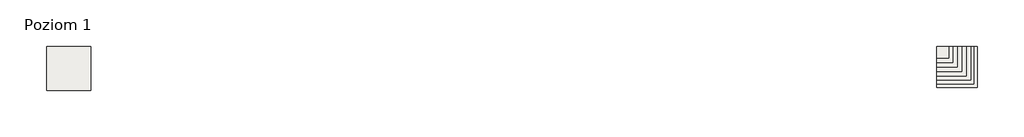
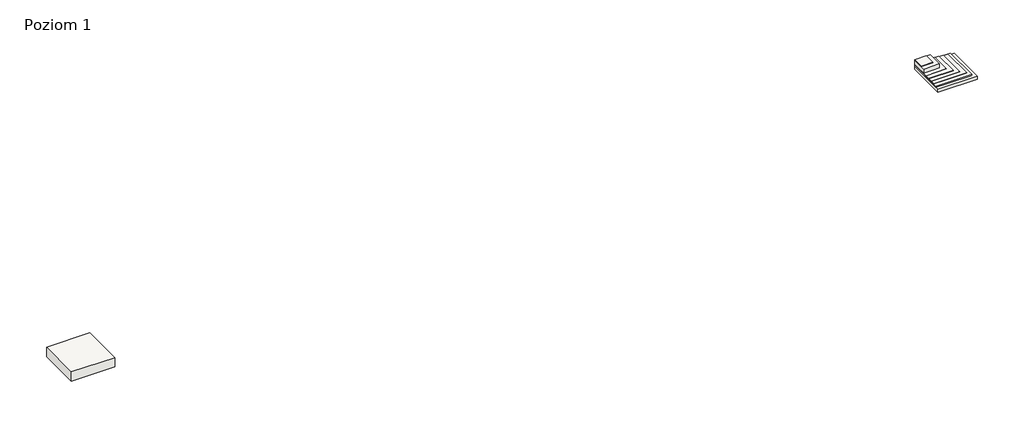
# One storey: 2 roofs.
"""IFC4 building model written with IfcOpenShell, lengths in millimetres."""

import ifcopenshell
import ifcopenshell.guid

model = None  # the IFC model being written
_history = None  # IfcOwnerHistory: only IFC2X3 demands one
_inside = {}  # id of a spatial element -> (the spatial element, [elements in it])
_under = {}  # id of a project, library or spatial element -> (it, [spatial elements below it])
_declared = {}  # id of a project -> (the project, [libraries it declares])
_typed = {}  # id of a type object -> (the type object, [elements of that type])
_made_of = {}  # id of a material, layer set ... -> (it, [elements and type objects made of it])


def new_model(schema):
    """Start an empty IFC model of exactly this schema.

    Asked for "IFC4X3", IfcOpenShell would pick the latest addendum, in which some entities
    have other attributes; the version numbers below select the first issue.
    IFC2X3 requires an IfcOwnerHistory on every rooted entity: one is made here for all.
    """
    global model, _history
    if schema == "IFC4X3":
        model = ifcopenshell.file(schema_version=(4, 3, 0, 0))
    else:
        model = ifcopenshell.file(schema=schema)
    _inside.clear()
    _under.clear()
    _declared.clear()
    _typed.clear()
    _made_of.clear()
    _history = None
    if model.schema == "IFC2X3":
        org = make("IfcOrganization", Name="unknown")
        user = make(
            "IfcPersonAndOrganization",
            ThePerson=make("IfcPerson", FamilyName="unknown"),
            TheOrganization=org,
        )
        app = make(
            "IfcApplication",
            ApplicationDeveloper=org,
            Version="unknown",
            ApplicationFullName="unknown",
            ApplicationIdentifier="unknown",
        )
        _history = make(
            "IfcOwnerHistory",
            OwningUser=user,
            OwningApplication=app,
            ChangeAction="ADDED",
            CreationDate=0,
        )
    return model


def make(cls, **values):
    """One entity of the class cls with the attributes given. An attribute that is None is left unset."""
    return model.create_entity(
        cls, **{name: value for name, value in values.items() if value is not None}
    )


def rooted(cls, **values):
    """An entity with a GlobalId (a new one), such as an element, a storey or a relation."""
    return make(cls, GlobalId=ifcopenshell.guid.new(), OwnerHistory=_history, **values)


def si_unit(unit_type, name, prefix=None):
    """IfcSIUnit, for example si_unit("LENGTHUNIT", "METRE", prefix="MILLI")."""
    return make("IfcSIUnit", UnitType=unit_type, Prefix=prefix, Name=name)


def assignment(units):
    """IfcUnitAssignment: the units of a project."""
    return None if units is None else make("IfcUnitAssignment", Units=units)


def point(xyz):
    """IfcCartesianPoint."""
    return None if xyz is None else make("IfcCartesianPoint", Coordinates=xyz)


def direction(xyz):
    """IfcDirection."""
    return None if xyz is None else make("IfcDirection", DirectionRatios=xyz)


def frame(location, z_axis=None, x_axis=None):
    """IfcAxis2Placement3D, a coordinate frame: its origin and axes. An axis left out is left unset."""
    return make(
        "IfcAxis2Placement3D",
        Location=point(location),
        Axis=direction(z_axis),
        RefDirection=direction(x_axis),
    )


def origin():
    """The frame at (0, 0, 0) with its axes left unset."""
    return frame((0.0, 0.0, 0.0))


def origin_with_axes():
    """The frame at (0, 0, 0) with the z axis (0, 0, 1) and the x axis (1, 0, 0) written out."""
    return frame((0.0, 0.0, 0.0), z_axis=(0.0, 0.0, 1.0), x_axis=(1.0, 0.0, 0.0))


def place(relative_to, where):
    """IfcLocalPlacement: puts the frame where relative to a parent placement (None: the world)."""
    return make(
        "IfcLocalPlacement", PlacementRelTo=relative_to, RelativePlacement=where
    )


def context(
    kind, dimensions, precision=None, world=None, true_north=None, identifier=None
):
    """IfcGeometricRepresentationContext, for example the 3D "Model" context."""
    return make(
        "IfcGeometricRepresentationContext",
        ContextIdentifier=identifier,
        ContextType=kind,
        CoordinateSpaceDimension=dimensions,
        Precision=precision,
        WorldCoordinateSystem=world,
        TrueNorth=true_north,
    )


def project(units=None, contexts=None):
    """IfcProject with its units and contexts."""
    return rooted(
        "IfcProject",
        Name="project",
        RepresentationContexts=contexts,
        UnitsInContext=assignment(units),
    )


def spatial(cls, under=None, at=None, **own):
    """A site, building, storey or space (cls), placed at a placement, below another one or the project."""
    s = rooted(cls, ObjectPlacement=at, **own)
    if under is not None:
        _under.setdefault(under.id(), (under, []))[1].append(s)
    return s


def polyline(points):
    """IfcPolyline through the points."""
    return make("IfcPolyline", Points=[point(p) for p in points])


def outline(outer, holes=None, kind="AREA"):
    """IfcArbitraryClosedProfileDef: a profile drawn as a closed curve; with holes, ...WithVoids."""
    if holes is None:
        return make("IfcArbitraryClosedProfileDef", ProfileType=kind, OuterCurve=outer)
    return make(
        "IfcArbitraryProfileDefWithVoids",
        ProfileType=kind,
        OuterCurve=outer,
        InnerCurves=holes,
    )


def extrude(swept, where, along, depth):
    """IfcExtrudedAreaSolid: the profile swept, set in the frame where, extruded along a direction by depth."""
    return make(
        "IfcExtrudedAreaSolid",
        SweptArea=swept,
        Position=where,
        ExtrudedDirection=direction(along),
        Depth=depth,
    )


def shape(context_of_items, identifier, shape_type, items):
    """IfcShapeRepresentation: the items that make up one representation, for example the "Body"."""
    return make(
        "IfcShapeRepresentation",
        ContextOfItems=context_of_items,
        RepresentationIdentifier=identifier,
        RepresentationType=shape_type,
        Items=items,
    )


def made_of(thing, what):
    """Note that an element or type object is made of a material, layer set ...; save() writes the relation."""
    if what is not None:
        _made_of.setdefault(what.id(), (what, []))[1].append(thing)
    return thing


def element(
    cls,
    number,
    at=None,
    inside=None,
    cuts=None,
    type_object=None,
    material=None,
    context=None,
    identifier="Body",
    shape_type=None,
    held_by="IfcProductDefinitionShape",
    body=None,
    shapes=None,
    **own,
):
    """One element of the class cls, such as IfcWall. Its Tag is "e" and its number.

    at: its placement. inside: the storey or other place that contains it. cuts: it is an
    opening in that element (IfcRelVoidsElement). A single representation is given by context,
    identifier, shape_type and body (its items); several are given by shapes. held_by: the class
    of the entity that holds the representations. save() writes the other relations.
    """
    e = rooted(cls, Tag="e%d" % number, ObjectPlacement=at, **own)
    if body is not None:
        shapes = [shape(context, identifier, shape_type, body)]
    if shapes is not None:
        e.Representation = make(held_by, Representations=shapes)
    if inside is not None:
        _inside.setdefault(inside.id(), (inside, []))[1].append(e)
    if cuts is not None:
        rooted(
            "IfcRelVoidsElement", RelatingBuildingElement=cuts, RelatedOpeningElement=e
        )
    if type_object is not None:
        _typed.setdefault(type_object.id(), (type_object, []))[1].append(e)
    return made_of(e, material)


def aggregate(whole, parts):
    """IfcRelAggregates: a whole, such as a stair, and the parts it consists of."""
    return rooted("IfcRelAggregates", RelatingObject=whole, RelatedObjects=parts)


def save(model, path):
    """Write the relations noted so far, then the file.

    IfcRelAggregates (storeys below a building ...), IfcRelContainedInSpatialStructure (elements
    in a storey), IfcRelDefinesByType, IfcRelAssociatesMaterial and IfcRelDeclares: one each for
    every whole, place, type object, material and project.
    """
    for whole, parts in _under.values():
        aggregate(whole, parts)
    for where, things in _inside.values():
        rooted(
            "IfcRelContainedInSpatialStructure",
            RelatedElements=things,
            RelatingStructure=where,
        )
    for kind, things in _typed.values():
        rooted("IfcRelDefinesByType", RelatedObjects=things, RelatingType=kind)
    for what, things in _made_of.values():
        rooted("IfcRelAssociatesMaterial", RelatedObjects=things, RelatingMaterial=what)
    for by, libraries in _declared.values():
        rooted("IfcRelDeclares", RelatingContext=by, RelatedDefinitions=libraries)
    model.write(path)


model = new_model("IFC4")

# Units and contexts
model_context = context("Model", 3, world=origin())
ifc_project = project(units=[si_unit("LENGTHUNIT", "METRE", prefix="MILLI")], contexts=[model_context])

# Site, building, storey
site = spatial("IfcSite", under=ifc_project)
building = spatial("IfcBuilding", under=site)
storey = spatial("IfcBuildingStorey", under=building, Name="Poziom 1", Elevation=0.0)

# Roofs
placement = place(None, origin())
element("IfcRoof", 1, ObjectType="Dachy zielone w uprawie intensywnej – Atus CRICKET 60 - układ tradycyjny", at=placement, inside=storey, context=model_context, shape_type="SweptSolid", body=[
    extrude(outline(polyline([(-16494.8444454, -525.5470033), (-13494.8444454, -525.5470033), (-13494.8444454, -3525.5470033), (-16494.8444454, -3525.5470033), (-16494.8444454, -525.5470033)])), origin_with_axes(), (0.0, 0.0, 1.0), 691.0),
])
element("IfcRoof", 2, ObjectType="Dachy zielone w uprawie intensywnej – Atus CRICKET 60 - układ tradycyjny", at=placement, inside=storey, context=model_context, shape_type="SweptSolid", body=[
    extrude(outline(polyline([(43905.1555546, -525.5470033), (44705.1555546, -525.5470033), (44705.1555546, -1325.5470033), (43905.1555546, -1325.5470033), (43905.1555546, -525.5470033)])), frame((0.0, 0.0, 666.0), z_axis=(0.0, 0.0, 1.0), x_axis=(1.0, 0.0, 0.0)), (0.0, 0.0, 1.0), 25.0),
    extrude(outline(polyline([(43905.1555546, -525.5470033), (45005.1555546, -525.5470033), (45005.1555546, -1625.5470033), (43905.1555546, -1625.5470033), (43905.1555546, -525.5470033)])), frame((0.0, 0.0, 366.0), z_axis=(0.0, 0.0, 1.0), x_axis=(1.0, 0.0, 0.0)), (0.0, 0.0, 1.0), 300.0),
    extrude(outline(polyline([(43905.1555546, -525.5470033), (45305.1555546, -525.5470033), (45305.1555546, -1925.5470033), (43905.1555546, -1925.5470033), (43905.1555546, -525.5470033)])), frame((0.0, 0.0, 365.0), z_axis=(0.0, 0.0, 1.0), x_axis=(1.0, 0.0, 0.0)), (0.0, 0.0, 1.0), 1.0),
    extrude(outline(polyline([(43905.1555546, -525.5470033), (45605.1555546, -525.5470033), (45605.1555546, -2225.5470033), (43905.1555546, -2225.5470033), (43905.1555546, -525.5470033)])), frame((0.0, 0.0, 305.0), z_axis=(0.0, 0.0, 1.0), x_axis=(1.0, 0.0, 0.0)), (0.0, 0.0, 1.0), 60.0),
    extrude(outline(polyline([(43905.1555546, -525.5470033), (45905.1555546, -525.5470033), (45905.1555546, -2525.5470033), (43905.1555546, -2525.5470033), (43905.1555546, -525.5470033)])), frame((0.0, 0.0, 302.0), z_axis=(0.0, 0.0, 1.0), x_axis=(1.0, 0.0, 0.0)), (0.0, 0.0, 1.0), 3.0),
    extrude(outline(polyline([(43905.1555546, -525.5470033), (46205.1555546, -525.5470033), (46205.1555546, -2825.5470033), (43905.1555546, -2825.5470033), (43905.1555546, -525.5470033)])), frame((0.0, 0.0, 300.0), z_axis=(0.0, 0.0, 1.0), x_axis=(1.0, 0.0, 0.0)), (0.0, 0.0, 1.0), 2.0),
    extrude(outline(polyline([(43905.1555546, -525.5470033), (46405.1555546, -525.5470033), (46405.1555546, -3090.4398026), (43905.1555546, -3090.4398026), (43905.1555546, -525.5470033)])), frame((0.0, 0.0, 200.0), z_axis=(0.0, 0.0, 1.0), x_axis=(1.0, 0.0, 0.0)), (0.0, 0.0, 1.0), 100.0),
    extrude(outline(polyline([(43905.1555546, -525.5470033), (46665.1555546, -525.5470033), (46665.1555546, -3325.5470033), (43905.1555546, -3325.5470033), (43905.1555546, -525.5470033)])), origin_with_axes(), (0.0, 0.0, 1.0), 200.0),
])

save(model, "model.ifc")
